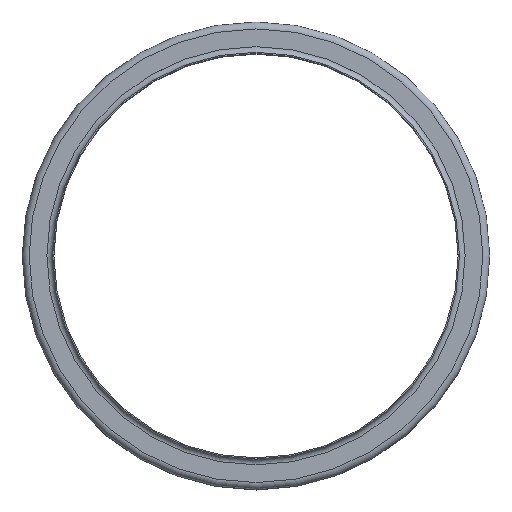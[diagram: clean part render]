
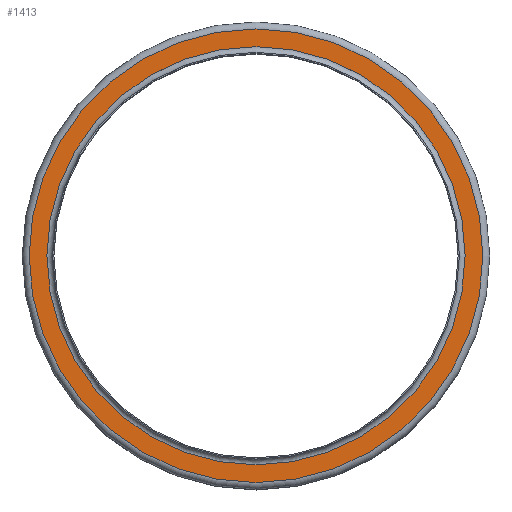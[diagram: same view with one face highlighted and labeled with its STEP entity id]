
A CAD part, top view. The second image highlights one B-rep face of the part: STEP entity #1413.
In plain terms, the highlighted planar face has unit normal (0, 0, 1).
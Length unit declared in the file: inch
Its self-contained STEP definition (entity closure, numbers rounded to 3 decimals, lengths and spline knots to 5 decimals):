
#127=FACE_BOUND('',#381,.T.);
#226=FACE_OUTER_BOUND('',#380,.T.);
#380=EDGE_LOOP('',(#1105));
#381=EDGE_LOOP('',(#1106));
#542=CIRCLE('',#1682,8.274);
#543=CIRCLE('',#1684,8.976);
#655=VERTEX_POINT('',#2578);
#656=VERTEX_POINT('',#2582);
#808=EDGE_CURVE('',#655,#655,#542,.T.);
#809=EDGE_CURVE('',#656,#656,#543,.T.);
#1105=ORIENTED_EDGE('',*,*,#809,.F.);
#1106=ORIENTED_EDGE('',*,*,#808,.T.);
#1203=PLANE('',#1683);
#1413=ADVANCED_FACE('',(#226,#127),#1203,.T.);
#1682=AXIS2_PLACEMENT_3D('',#2580,#2178,#2179);
#1683=AXIS2_PLACEMENT_3D('',#2581,#2180,#2181);
#1684=AXIS2_PLACEMENT_3D('',#2583,#2182,#2183);
#2178=DIRECTION('center_axis',(0.,0.,-1.));
#2179=DIRECTION('ref_axis',(1.,0.,0.));
#2180=DIRECTION('center_axis',(0.,0.,1.));
#2181=DIRECTION('ref_axis',(1.,0.,0.));
#2182=DIRECTION('center_axis',(0.,0.,-1.));
#2183=DIRECTION('ref_axis',(1.,0.,0.));
#2578=CARTESIAN_POINT('',(8.274,0.,-0.226));
#2580=CARTESIAN_POINT('Origin',(0.,0.,-0.226));
#2581=CARTESIAN_POINT('Origin',(0.,8.976,-0.226));
#2582=CARTESIAN_POINT('',(8.976,0.,-0.226));
#2583=CARTESIAN_POINT('Origin',(0.,0.,-0.226));
